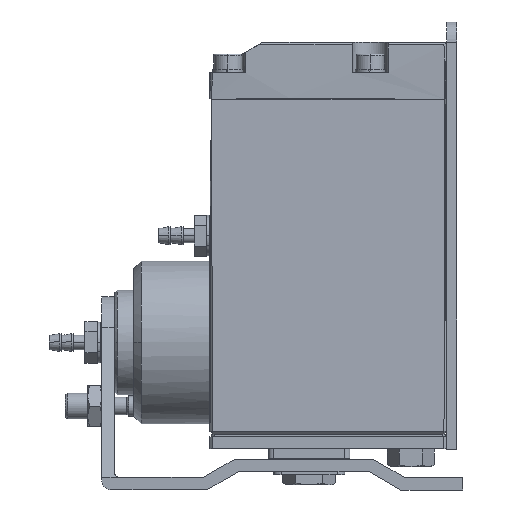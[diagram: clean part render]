
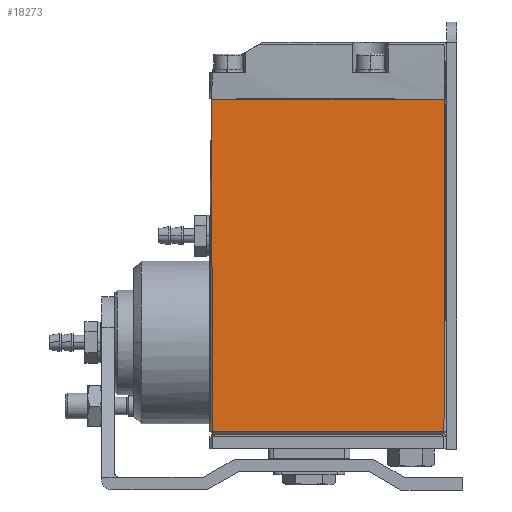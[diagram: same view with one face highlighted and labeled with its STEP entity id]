
A CAD part, left-side view. The second image highlights one B-rep face of the part: STEP entity #18273.
In plain terms, the highlighted planar face has unit normal (-1, 0, 0).
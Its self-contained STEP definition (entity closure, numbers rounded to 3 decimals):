
#333 = VERTEX_POINT ( 'NONE', #58188 ) ;
#4474 = DIRECTION ( 'NONE',  ( 0., 0., 1. ) ) ;
#5665 = VECTOR ( 'NONE', #17572, 1000. ) ;
#6024 = CARTESIAN_POINT ( 'NONE',  ( 0., 46., 33. ) ) ;
#7105 = LINE ( 'NONE', #30999, #5665 ) ;
#8756 = CARTESIAN_POINT ( 'NONE',  ( 0.255, 0.3, 65.8 ) ) ;
#10605 = DIRECTION ( 'NONE',  ( 0., 0., -1. ) ) ;
#15277 = CARTESIAN_POINT ( 'NONE',  ( 0., 23.25, 65.5 ) ) ;
#16180 = EDGE_CURVE ( 'NONE', #16202, #19757, #48284, .T. ) ;
#16202 = VERTEX_POINT ( 'NONE', #33827 ) ;
#17345 = CARTESIAN_POINT ( 'NONE',  ( 0., 46., 0.5 ) ) ;
#17572 = DIRECTION ( 'NONE',  ( 0., 1., 0. ) ) ;
#18273 = ADVANCED_FACE ( 'NONE', ( #39614 ), #35595, .T. ) ;
#19447 = VECTOR ( 'NONE', #41977, 1000. ) ;
#19757 = VERTEX_POINT ( 'NONE', #8756 ) ;
#20439 = DIRECTION ( 'NONE',  ( 0., 0., 1. ) ) ;
#27317 = ORIENTED_EDGE ( 'NONE', *, *, #50577, .T. ) ;
#30357 = AXIS2_PLACEMENT_3D ( 'NONE', #58450, #31346, #4474 ) ;
#30999 = CARTESIAN_POINT ( 'NONE',  ( 0., 23.25, 0.5 ) ) ;
#31346 = DIRECTION ( 'NONE',  ( -1., 0., 0. ) ) ;
#33827 = CARTESIAN_POINT ( 'NONE',  ( 0., 0.5, 0.5 ) ) ;
#35595 = PLANE ( 'NONE',  #30357 ) ;
#36343 = VECTOR ( 'NONE', #20439, 1000. ) ;
#36563 = VECTOR ( 'NONE', #10605, 1000. ) ;
#38114 = CARTESIAN_POINT ( 'NONE',  ( 0., 0.5, 33. ) ) ;
#39614 = FACE_OUTER_BOUND ( 'NONE', #44384, .T. ) ;
#40199 = EDGE_CURVE ( 'NONE', #16202, #51925, #7105, .T. ) ;
#41977 = DIRECTION ( 'NONE',  ( 0., 1., 0. ) ) ;
#44384 = EDGE_LOOP ( 'NONE', ( #58025, #47554, #55872, #27317 ) ) ;
#47554 = ORIENTED_EDGE ( 'NONE', *, *, #40199, .F. ) ;
#48284 = LINE ( 'NONE', #38114, #36343 ) ;
#48515 = LINE ( 'NONE', #6024, #36563 ) ;
#50577 = EDGE_CURVE ( 'NONE', #19757, #333, #56758, .T. ) ;
#51925 = VERTEX_POINT ( 'NONE', #17345 ) ;
#55872 = ORIENTED_EDGE ( 'NONE', *, *, #16180, .T. ) ;
#56758 = LINE ( 'NONE', #15277, #19447 ) ;
#58025 = ORIENTED_EDGE ( 'NONE', *, *, #58345, .T. ) ;
#58188 = CARTESIAN_POINT ( 'NONE',  ( 0.255, 46.2, 65.8 ) ) ;
#58345 = EDGE_CURVE ( 'NONE', #333, #51925, #48515, .T. ) ;
#58450 = CARTESIAN_POINT ( 'NONE',  ( 0., -4.05, -6. ) ) ;
